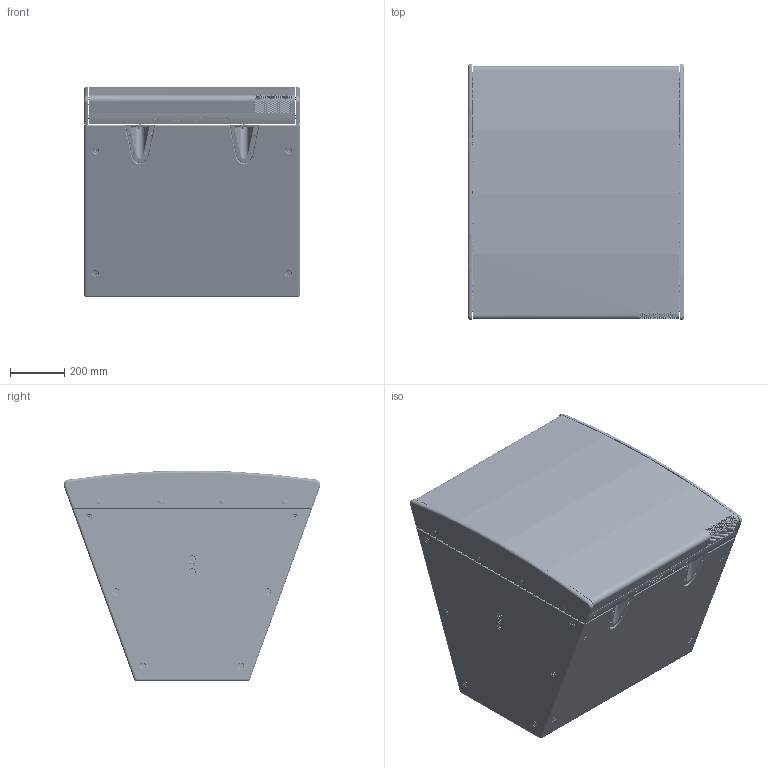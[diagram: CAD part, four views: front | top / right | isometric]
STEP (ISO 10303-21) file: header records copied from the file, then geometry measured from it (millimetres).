
FILE_DESCRIPTION (( 'STEP AP214' ), '1' );
FILE_NAME ('LVH900_2July2026_For Website.STEP', '2026-07-02T12:22:52', ( '' ), ( '' ), 'SwSTEP 2.0', 'SolidWorks 2026', '' );
FILE_SCHEMA (( 'AUTOMOTIVE_DESIGN' ));
Length unit declared in the file: millimetre
Products named in the file (66): 525.0363_93395A412; 525.0334; 525.0369; 012.0068; 368.0323; 752.0164; Ghost cup label; 368.0330; 012.0069; 752.0172; 525.0329; 752.0159; 548.0215; 752.0097-COVER; 368.0326; 752.0168; 500.0199; 368.0328; 368.0257; 368.0256; 525.0346; 525.0368; 525.0333_114628; 012.0055; 548.0153; 548.0185; 752.0097; 525.0335; 525.0397; Ghost-cup; 012.0067; 525.0347; 012.0070; 535.0085_5mm X 8mm T-NUT; 752.0096-PCB-GASKET; 525.0333; 650.0038; 752.0157; 520.0056; 525.0367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
Assembly tree (241 placements, depth 7):
  012.0068
  012.0069
  500.0199
  368.0257
  368.0256
Bounding box: 800.23 x 948.32 x 778.9 mm (x, y, z)
Volume: 41744998.7 mm3; surface area: 7649317.5 mm2
Topology: 249 solids, 249 shells, 18712 faces, 50673 edges, 32484 vertices
Faces by surface type: cylinder 10294, plane 3760, bspline 2054, cone 1618, torus 794, sphere 192
Entity records: 199331 total; most frequent: CARTESIAN_POINT 105246, ORIENTED_EDGE 20344, DIRECTION 17864, EDGE_CURVE 10172, AXIS2_PLACEMENT_3D 7022, VERTEX_POINT 6412, EDGE_LOOP 4744, ADVANCED_FACE 3896
